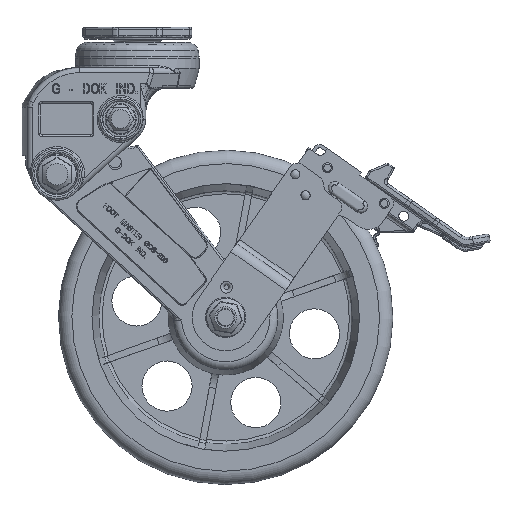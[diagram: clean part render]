
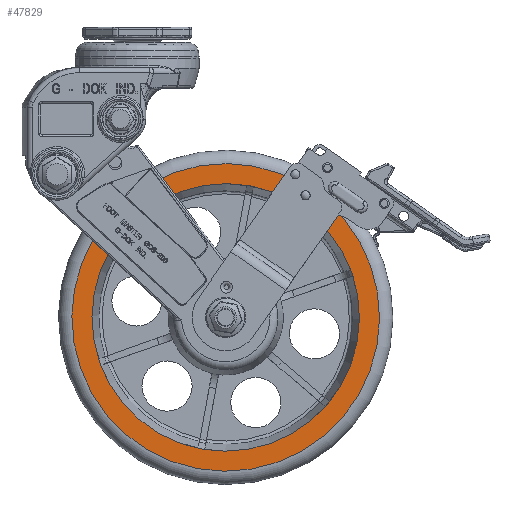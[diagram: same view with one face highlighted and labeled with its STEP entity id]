
A CAD part, left-side view. The second image highlights one B-rep face of the part: STEP entity #47829.
In plain terms, the highlighted planar face has unit normal (-1, 0, 0).
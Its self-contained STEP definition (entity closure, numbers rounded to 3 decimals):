
#8208=CARTESIAN_POINT('',(-20.,-139.585,-133.228));
#8209=VERTEX_POINT('',#8208);
#8210=CARTESIAN_POINT('',(-20.,-52.863,-163.94));
#8211=DIRECTION('',(1.0,0.,0.));
#8212=DIRECTION('',(0.,0.943,-0.334));
#8213=AXIS2_PLACEMENT_3D('',#8210,#8211,#8212);
#8214=CIRCLE('',#8213,92.0);
#8215=EDGE_CURVE('',#8209,#8209,#8214,.T.);
#47765=CARTESIAN_POINT('',(-20.,-130.63,-136.4));
#47766=DIRECTION('',(-1.0,0.0,0.0));
#47767=DIRECTION('',(0.0,0.334,0.943));
#47768=AXIS2_PLACEMENT_3D('',#47765,#47766,#47767);
#47769=PLANE('',#47768);
#47770=ORIENTED_EDGE('',*,*,#8215,.F.);
#47771=EDGE_LOOP('',(#47770));
#47772=FACE_OUTER_BOUND('',#47771,.T.);
#47773=CARTESIAN_POINT('',(-20.,-128.274,-137.234));
#47774=VERTEX_POINT('',#47773);
#47775=CARTESIAN_POINT('',(-20.,-67.44,-85.279));
#47776=VERTEX_POINT('',#47775);
#47777=CARTESIAN_POINT('',(-20.,-52.863,-163.94));
#47778=DIRECTION('',(-1.,0.,0.));
#47779=DIRECTION('',(0.,-0.943,0.334));
#47780=AXIS2_PLACEMENT_3D('',#47777,#47778,#47779);
#47781=CIRCLE('',#47780,80.);
#47782=EDGE_CURVE('',#47774,#47776,#47781,.T.);
#47783=ORIENTED_EDGE('',*,*,#47782,.F.);
#47784=CARTESIAN_POINT('',(-20.,-113.696,-215.895));
#47785=VERTEX_POINT('',#47784);
#47786=CARTESIAN_POINT('',(-20.,-52.863,-163.94));
#47787=DIRECTION('',(-1.,0.,0.));
#47788=DIRECTION('',(0.,-0.943,0.334));
#47789=AXIS2_PLACEMENT_3D('',#47786,#47787,#47788);
#47790=CIRCLE('',#47789,80.);
#47791=EDGE_CURVE('',#47785,#47774,#47790,.T.);
#47792=ORIENTED_EDGE('',*,*,#47791,.F.);
#47793=CARTESIAN_POINT('',(-20.,-38.285,-242.601));
#47794=VERTEX_POINT('',#47793);
#47795=CARTESIAN_POINT('',(-20.,-52.863,-163.94));
#47796=DIRECTION('',(-1.,0.,0.));
#47797=DIRECTION('',(0.,-0.943,0.334));
#47798=AXIS2_PLACEMENT_3D('',#47795,#47796,#47797);
#47799=CIRCLE('',#47798,80.);
#47800=EDGE_CURVE('',#47794,#47785,#47799,.T.);
#47801=ORIENTED_EDGE('',*,*,#47800,.F.);
#47802=CARTESIAN_POINT('',(-20.,22.548,-190.646));
#47803=VERTEX_POINT('',#47802);
#47804=CARTESIAN_POINT('',(-20.,-52.863,-163.94));
#47805=DIRECTION('',(-1.,0.,0.));
#47806=DIRECTION('',(0.,-0.943,0.334));
#47807=AXIS2_PLACEMENT_3D('',#47804,#47805,#47806);
#47808=CIRCLE('',#47807,80.);
#47809=EDGE_CURVE('',#47803,#47794,#47808,.T.);
#47810=ORIENTED_EDGE('',*,*,#47809,.F.);
#47811=CARTESIAN_POINT('',(-20.,7.971,-111.985));
#47812=VERTEX_POINT('',#47811);
#47813=CARTESIAN_POINT('',(-20.,-52.863,-163.94));
#47814=DIRECTION('',(-1.,0.,0.));
#47815=DIRECTION('',(0.,-0.943,0.334));
#47816=AXIS2_PLACEMENT_3D('',#47813,#47814,#47815);
#47817=CIRCLE('',#47816,80.);
#47818=EDGE_CURVE('',#47812,#47803,#47817,.T.);
#47819=ORIENTED_EDGE('',*,*,#47818,.F.);
#47820=CARTESIAN_POINT('',(-20.,-52.863,-163.94));
#47821=DIRECTION('',(-1.,0.,0.));
#47822=DIRECTION('',(0.,-0.943,0.334));
#47823=AXIS2_PLACEMENT_3D('',#47820,#47821,#47822);
#47824=CIRCLE('',#47823,80.);
#47825=EDGE_CURVE('',#47776,#47812,#47824,.T.);
#47826=ORIENTED_EDGE('',*,*,#47825,.F.);
#47827=EDGE_LOOP('',(#47783,#47792,#47801,#47810,#47819,#47826));
#47828=FACE_BOUND('',#47827,.T.);
#47829=ADVANCED_FACE('',(#47772,#47828),#47769,.T.);
